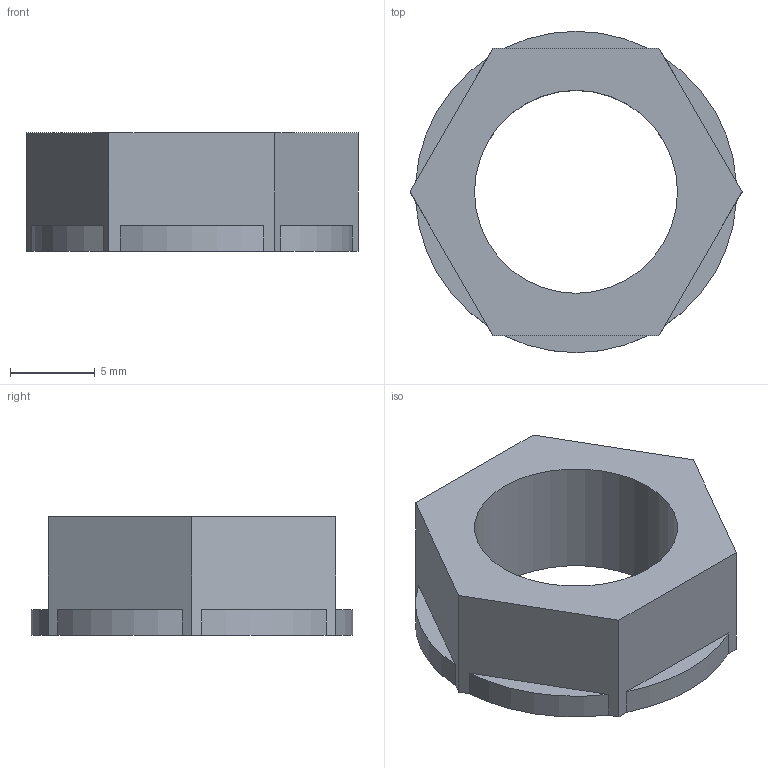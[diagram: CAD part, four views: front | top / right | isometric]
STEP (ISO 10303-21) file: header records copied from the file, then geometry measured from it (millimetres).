
FILE_DESCRIPTION(('Open CASCADE Model'),'2;1');
FILE_NAME('Open CASCADE Shape Model','2026-09-23T04:43:30',('Author'),( 'Open CASCADE'),'Open CASCADE STEP processor 7.9','Open CASCADE 7.9' ,'Unknown');
FILE_SCHEMA(('AUTOMOTIVE_DESIGN { 1 0 10303 214 1 1 1 1 }'));
Length unit declared in the file: millimetre
Products named in the file (1): Open CASCADE STEP translator 7.9 7
Bounding box: 19.63 x 19 x 7 mm (x, y, z)
Volume: 1011.8 mm3; surface area: 1021.9 mm2
Topology: 1 solids, 1 shells, 21 faces, 57 edges, 38 vertices
Faces by surface type: plane 14, cylinder 7
Full cylindrical faces by diameter (mm): 12 x1
Entity records: 1390 total; most frequent: CARTESIAN_POINT 279, DIRECTION 191, ORIENTED_EDGE 114, PCURVE 114, DEFINITIONAL_REPRESENTATION 114, LINE 107, VECTOR 107, EDGE_CURVE 57
